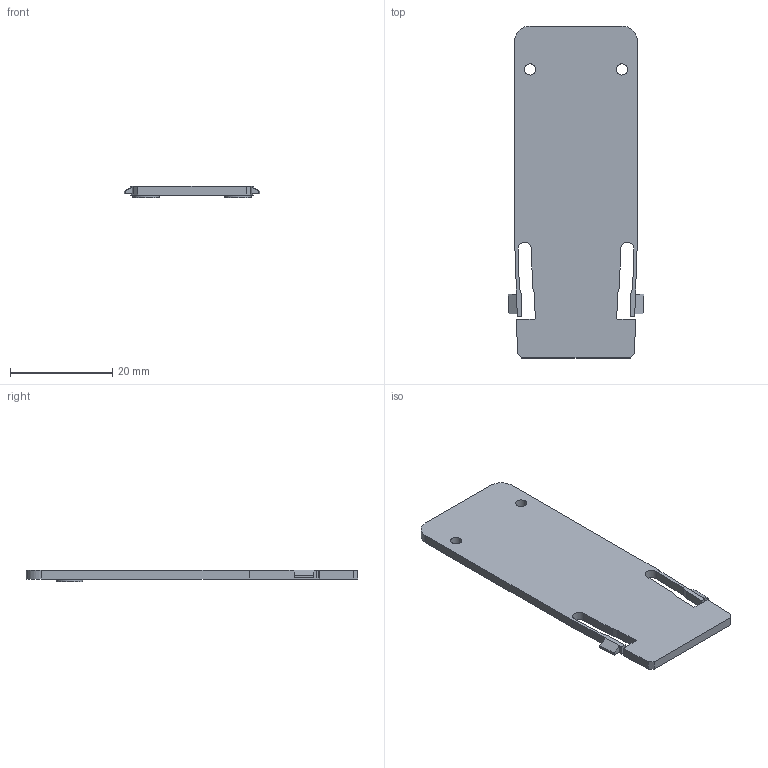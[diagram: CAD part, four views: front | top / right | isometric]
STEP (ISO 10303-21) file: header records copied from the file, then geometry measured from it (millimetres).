
FILE_DESCRIPTION(('Open CASCADE Model'),'2;1');
FILE_NAME('Open CASCADE Shape Model','2026-10-11T15:12:37',('Author'),( 'Open CASCADE'),'Open CASCADE STEP processor 7.9','Open CASCADE 7.9' ,'Unknown');
FILE_SCHEMA(('AUTOMOTIVE_DESIGN { 1 0 10303 214 1 1 1 1 }'));
Length unit declared in the file: millimetre
Products named in the file (1): Open CASCADE STEP translator 7.9 1
Bounding box: 26.49 x 65 x 2.3 mm (x, y, z)
Volume: 2577.4 mm3; surface area: 3411.4 mm2
Topology: 1 solids, 1 shells, 50 faces, 134 edges, 88 vertices
Faces by surface type: plane 42, cylinder 8
Full cylindrical faces by diameter (mm): 2.2 x2, 5.2 x2
Entity records: 3200 total; most frequent: CARTESIAN_POINT 661, DIRECTION 410, ORIENTED_EDGE 268, PCURVE 268, DEFINITIONAL_REPRESENTATION 268, LINE 262, VECTOR 262, EDGE_CURVE 134
